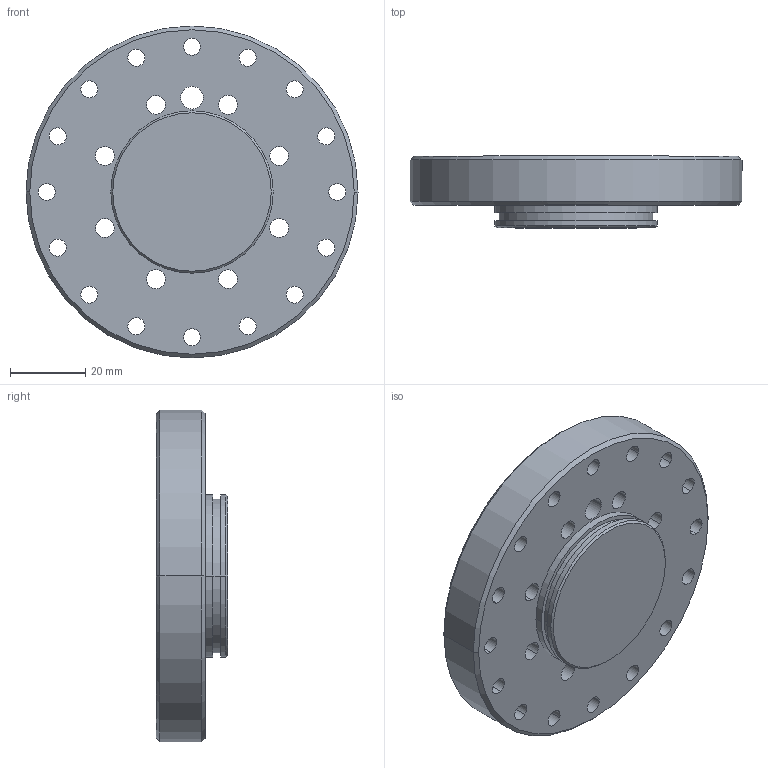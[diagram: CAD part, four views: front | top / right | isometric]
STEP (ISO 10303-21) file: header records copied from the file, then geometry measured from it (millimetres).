
FILE_DESCRIPTION (( 'STEP AP203' ), '1' );
FILE_NAME ('TKB3670-07.STEP', '2023-07-17T01:48:09', ( '1' ), ( '1' ), 'SwSTEP 2.0', 'SolidWorks 2018', '' );
FILE_SCHEMA (( 'CONFIG_CONTROL_DESIGN' ));
Length unit declared in the file: millimetre
Products named in the file (1): TKB3670-07
Bounding box: 88 x 19 x 88 mm (x, y, z)
Surface area: 21243.7 mm2 (no closed solid volume)
Topology: 0 solids, 2 shells, 121 faces, 292 edges, 192 vertices
Faces by surface type: cylinder 92, plane 21, cone 8
Entity records: 3808 total; most frequent: DIRECTION 728, CARTESIAN_POINT 606, ORIENTED_EDGE 580, AXIS2_PLACEMENT_3D 314, EDGE_CURVE 292, CIRCLE 192, VERTEX_POINT 192, EDGE_LOOP 190
